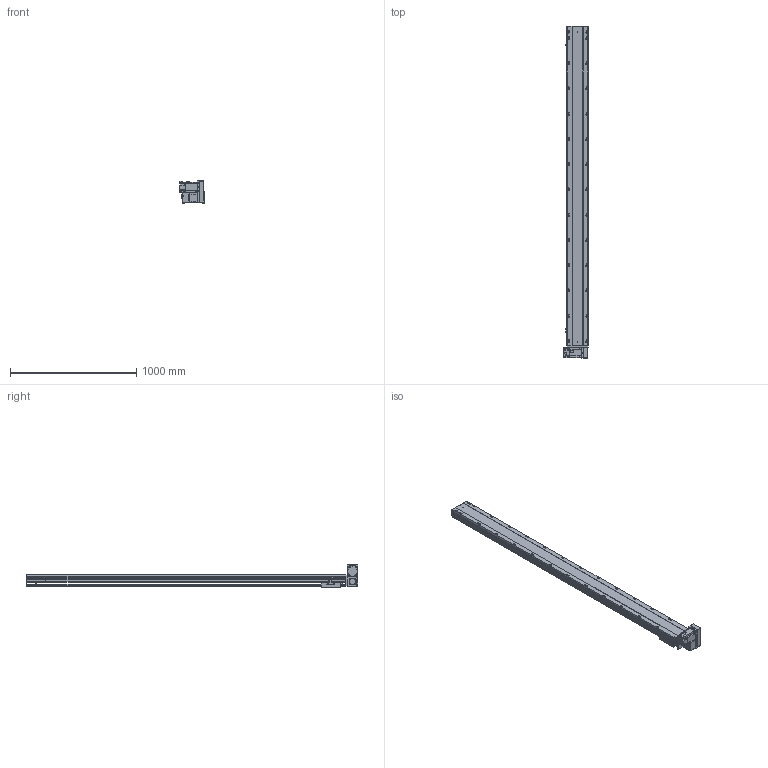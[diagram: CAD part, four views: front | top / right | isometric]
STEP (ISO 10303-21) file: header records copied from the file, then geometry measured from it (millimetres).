
FILE_DESCRIPTION (( 'STEP AP203' ), '1' );
FILE_NAME ('BTB17-L50-2250-LD-T75-C4.STEP', '2022-07-26T01:50:33', ( 'CXY' ), ( 'BT' ), 'SwSTEP 2.0', 'SolidWorks 2016', '' );
FILE_SCHEMA (( 'CONFIG_CONTROL_DESIGN' ));
Length unit declared in the file: millimetre
Products named in the file (10): BTB17-L-HZ; BTB17-L-02; BTB17-L-04; BTB17-L-菁釱_XD; BTB17-L-06; BTB17-L50-2250-LD-T75-C4; BTB17-L-01; BTB17-L-24; T75; BTB17-L-23
Assembly tree (12 placements, depth 2):
  BTB17-L50-2250-LD-T75-C4
    BTB17-L-菁釱_XD
    BTB17-L-01
    BTB17-L-04  x3
    BTB17-L-06
    BTB17-L-23  x2
    BTB17-L-24
    BTB17-L-HZ
    BTB17-L-02
    T75
Bounding box: 195.3 x 2629 x 176.5 mm (x, y, z)
Volume: 22473322.3 mm3; surface area: 2882486.8 mm2
Topology: 22 solids, 22 shells, 1714 faces, 4485 edges, 2824 vertices
Faces by surface type: plane 882, cylinder 624, cone 172, bspline 20, torus 16
Entity records: 44237 total; most frequent: CARTESIAN_POINT 8204, DIRECTION 7471, ORIENTED_EDGE 7074, EDGE_CURVE 3537, AXIS2_PLACEMENT_3D 2615, VERTEX_POINT 2292, LINE 2241, VECTOR 2241
